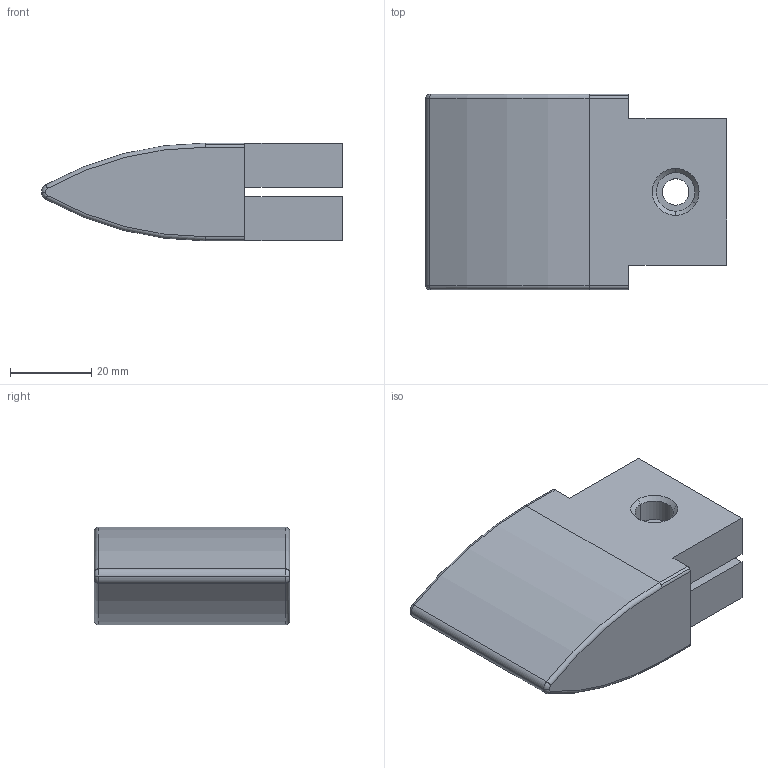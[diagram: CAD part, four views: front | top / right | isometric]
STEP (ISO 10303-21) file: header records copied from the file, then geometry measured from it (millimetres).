
FILE_DESCRIPTION(('STEP AP214'),'1');
FILE_NAME('P36601','2017-01-12T07:28:26',('dentellad'),(' '),'Spatial InterOp 3D',' ',' ');
FILE_SCHEMA(('automotive_design'));
Length unit declared in the file: millimetre
Products named in the file (1): 1
Bounding box: 74 x 48 x 24 mm (x, y, z)
Volume: 61439.9 mm3; surface area: 12898.1 mm2
Topology: 1 solids, 1 shells, 46 faces, 114 edges, 72 vertices
Faces by surface type: cylinder 20, plane 15, torus 8, cone 3
Entity records: 2310 total; most frequent: DIRECTION 266, CARTESIAN_POINT 233, ORIENTED_EDGE 228, STYLED_ITEM 153, PRESENTATION_STYLE_ASSIGNMENT 153, COLOUR_RGB 153, EDGE_CURVE 114, CURVE_STYLE 106
